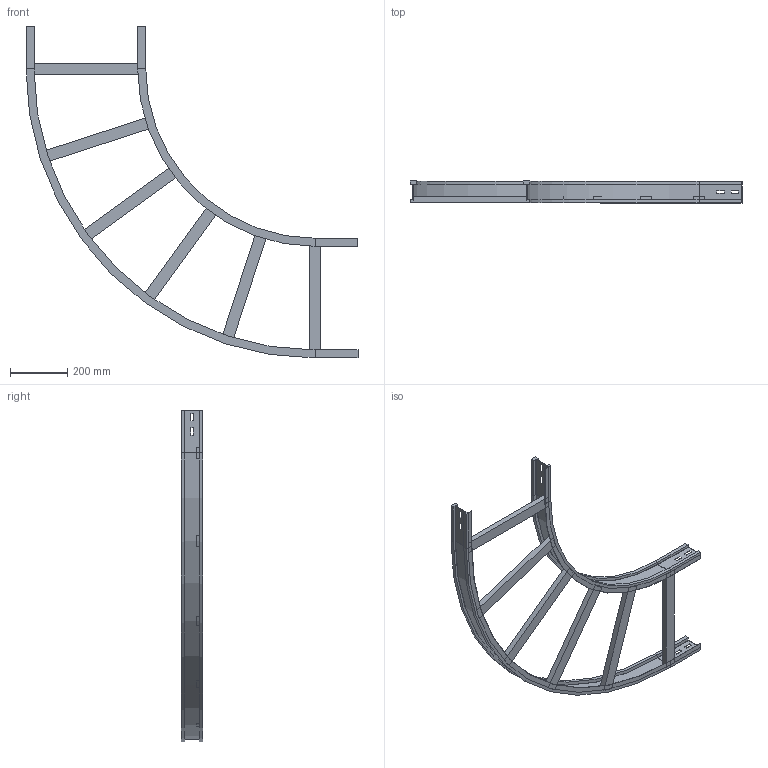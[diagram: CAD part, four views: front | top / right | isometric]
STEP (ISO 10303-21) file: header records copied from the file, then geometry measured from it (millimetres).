
FILE_DESCRIPTION (( 'STEP AP214' ), '1' );
FILE_NAME ('10S6C400.step', '2025-02-21T16:11:51', ( '' ), ( '' ), 'SwSTEP 2.0', 'SolidWorks 2023', '' );
FILE_SCHEMA (( 'AUTOMOTIVE_DESIGN' ));
Length unit declared in the file: millimetre
Products named in the file (4): LONGH.INTERNO 90°_H75_R600; LONGH.ESTERNO 90°_H75_R600+400; TRAVERSINO_400; 10S6C400
Assembly tree (8 placements, depth 2):
  10S6C400
    LONGH.INTERNO 90°_H75_R600
    LONGH.ESTERNO 90°_H75_R600+400
    TRAVERSINO_400  x6
Bounding box: 1159 x 75 x 1159 mm (x, y, z)
Volume: 3460785.8 mm3; surface area: 1066107.7 mm2
Topology: 8 solids, 8 shells, 144 faces, 336 edges, 208 vertices
Faces by surface type: plane 132, cylinder 12
Entity records: 3413 total; most frequent: CARTESIAN_POINT 569, ORIENTED_EDGE 552, DIRECTION 550, EDGE_CURVE 276, LINE 252, VECTOR 252, VERTEX_POINT 168, AXIS2_PLACEMENT_3D 149
